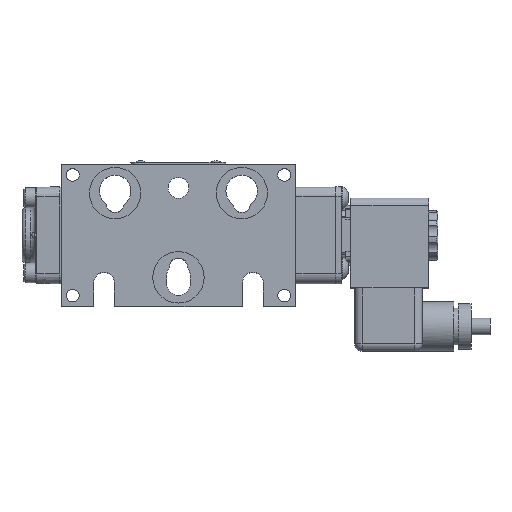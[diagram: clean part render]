
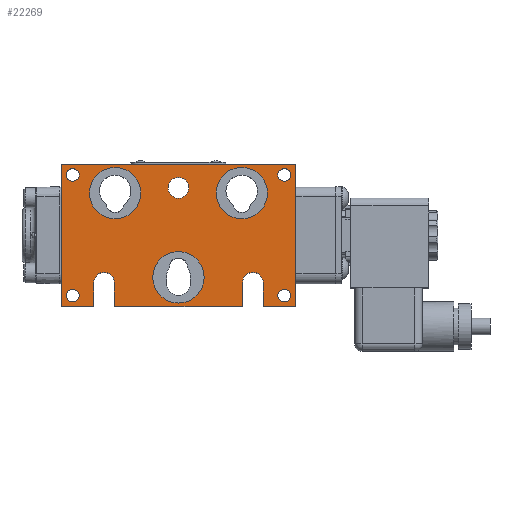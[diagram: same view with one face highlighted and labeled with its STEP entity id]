
A CAD part, top view. The second image highlights one B-rep face of the part: STEP entity #22269.
In plain terms, the highlighted planar face has unit normal (0, 0, 1).
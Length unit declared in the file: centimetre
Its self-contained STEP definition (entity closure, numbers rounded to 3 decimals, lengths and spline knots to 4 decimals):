
#1014=FACE_BOUND('',#6145,.T.);
#1015=FACE_BOUND('',#6146,.T.);
#1016=FACE_BOUND('',#6147,.T.);
#1017=FACE_BOUND('',#6148,.T.);
#1018=FACE_BOUND('',#6149,.T.);
#1019=FACE_BOUND('',#6150,.T.);
#1020=FACE_BOUND('',#6151,.T.);
#1021=FACE_BOUND('',#6152,.T.);
#1334=LINE('',#33173,#2672);
#1342=LINE('',#33197,#2680);
#1359=LINE('',#33302,#2697);
#1397=LINE('',#34109,#2735);
#1399=LINE('',#34113,#2737);
#1402=LINE('',#34121,#2740);
#1404=LINE('',#34125,#2742);
#1406=LINE('',#34129,#2744);
#1409=LINE('',#34137,#2747);
#1411=LINE('',#34140,#2749);
#2672=VECTOR('',#26499,9.4234);
#2680=VECTOR('',#26517,5.715);
#2697=VECTOR('',#26608,5.715);
#2735=VECTOR('',#27060,1.3106);
#2737=VECTOR('',#27064,0.9525);
#2740=VECTOR('',#27073,0.9525);
#2742=VECTOR('',#27077,5.1359);
#2744=VECTOR('',#27081,0.9525);
#2747=VECTOR('',#27090,0.9525);
#2749=VECTOR('',#27094,1.3106);
#4584=FACE_OUTER_BOUND('',#6144,.T.);
#6144=EDGE_LOOP('',(#14681,#14682,#14683,#14684,#14685,#14686,#14687,#14688,
#14689,#14690,#14691,#14692));
#6145=EDGE_LOOP('',(#14693));
#6146=EDGE_LOOP('',(#14694));
#6147=EDGE_LOOP('',(#14695));
#6148=EDGE_LOOP('',(#14696));
#6149=EDGE_LOOP('',(#14697));
#6150=EDGE_LOOP('',(#14698));
#6151=EDGE_LOOP('',(#14699));
#6152=EDGE_LOOP('',(#14700));
#7851=CIRCLE('',#23860,0.4167);
#7880=CIRCLE('',#23907,1.0312);
#7881=CIRCLE('',#23910,1.0312);
#7883=CIRCLE('',#23913,1.0312);
#7884=CIRCLE('',#23916,0.2578);
#7885=CIRCLE('',#23918,0.2578);
#7886=CIRCLE('',#23920,0.2578);
#7887=CIRCLE('',#23922,0.2578);
#7888=CIRCLE('',#23926,0.4166);
#7889=CIRCLE('',#23931,0.4166);
#9042=VERTEX_POINT('',#33171);
#9043=VERTEX_POINT('',#33172);
#9054=VERTEX_POINT('',#33196);
#9105=VERTEX_POINT('',#33301);
#9206=VERTEX_POINT('',#33980);
#9243=VERTEX_POINT('',#34083);
#9244=VERTEX_POINT('',#34087);
#9246=VERTEX_POINT('',#34092);
#9247=VERTEX_POINT('',#34096);
#9248=VERTEX_POINT('',#34099);
#9249=VERTEX_POINT('',#34102);
#9250=VERTEX_POINT('',#34105);
#9251=VERTEX_POINT('',#34108);
#9252=VERTEX_POINT('',#34112);
#9253=VERTEX_POINT('',#34116);
#9254=VERTEX_POINT('',#34120);
#9255=VERTEX_POINT('',#34124);
#9256=VERTEX_POINT('',#34128);
#9257=VERTEX_POINT('',#34132);
#9258=VERTEX_POINT('',#34136);
#11125=EDGE_CURVE('',#9042,#9043,#1334,.T.);
#11137=EDGE_CURVE('',#9043,#9054,#1342,.T.);
#11189=EDGE_CURVE('',#9105,#9042,#1359,.T.);
#11304=EDGE_CURVE('',#9206,#9206,#7851,.T.);
#11352=EDGE_CURVE('',#9243,#9243,#7880,.T.);
#11353=EDGE_CURVE('',#9244,#9244,#7881,.T.);
#11355=EDGE_CURVE('',#9246,#9246,#7883,.T.);
#11356=EDGE_CURVE('',#9247,#9247,#7884,.T.);
#11357=EDGE_CURVE('',#9248,#9248,#7885,.T.);
#11358=EDGE_CURVE('',#9249,#9249,#7886,.T.);
#11359=EDGE_CURVE('',#9250,#9250,#7887,.T.);
#11360=EDGE_CURVE('',#9054,#9251,#1397,.T.);
#11362=EDGE_CURVE('',#9251,#9252,#1399,.T.);
#11364=EDGE_CURVE('',#9252,#9253,#7888,.T.);
#11366=EDGE_CURVE('',#9253,#9254,#1402,.T.);
#11368=EDGE_CURVE('',#9254,#9255,#1404,.T.);
#11370=EDGE_CURVE('',#9255,#9256,#1406,.T.);
#11372=EDGE_CURVE('',#9256,#9257,#7889,.T.);
#11374=EDGE_CURVE('',#9257,#9258,#1409,.T.);
#11376=EDGE_CURVE('',#9258,#9105,#1411,.T.);
#14681=ORIENTED_EDGE('',*,*,#11125,.F.);
#14682=ORIENTED_EDGE('',*,*,#11189,.F.);
#14683=ORIENTED_EDGE('',*,*,#11376,.F.);
#14684=ORIENTED_EDGE('',*,*,#11374,.F.);
#14685=ORIENTED_EDGE('',*,*,#11372,.F.);
#14686=ORIENTED_EDGE('',*,*,#11370,.F.);
#14687=ORIENTED_EDGE('',*,*,#11368,.F.);
#14688=ORIENTED_EDGE('',*,*,#11366,.F.);
#14689=ORIENTED_EDGE('',*,*,#11364,.F.);
#14690=ORIENTED_EDGE('',*,*,#11362,.F.);
#14691=ORIENTED_EDGE('',*,*,#11360,.F.);
#14692=ORIENTED_EDGE('',*,*,#11137,.F.);
#14693=ORIENTED_EDGE('',*,*,#11304,.T.);
#14694=ORIENTED_EDGE('',*,*,#11352,.T.);
#14695=ORIENTED_EDGE('',*,*,#11353,.T.);
#14696=ORIENTED_EDGE('',*,*,#11355,.T.);
#14697=ORIENTED_EDGE('',*,*,#11356,.T.);
#14698=ORIENTED_EDGE('',*,*,#11357,.T.);
#14699=ORIENTED_EDGE('',*,*,#11358,.T.);
#14700=ORIENTED_EDGE('',*,*,#11359,.T.);
#20359=PLANE('',#23934);
#22269=ADVANCED_FACE('',(#4584,#1014,#1015,#1016,#1017,#1018,#1019,#1020,
#1021),#20359,.T.);
#23860=AXIS2_PLACEMENT_3D('',#33981,#26913,#26914);
#23907=AXIS2_PLACEMENT_3D('',#34084,#27026,#27027);
#23910=AXIS2_PLACEMENT_3D('',#34088,#27032,#27033);
#23913=AXIS2_PLACEMENT_3D('',#34093,#27038,#27039);
#23916=AXIS2_PLACEMENT_3D('',#34097,#27044,#27045);
#23918=AXIS2_PLACEMENT_3D('',#34100,#27048,#27049);
#23920=AXIS2_PLACEMENT_3D('',#34103,#27052,#27053);
#23922=AXIS2_PLACEMENT_3D('',#34106,#27056,#27057);
#23926=AXIS2_PLACEMENT_3D('',#34117,#27068,#27069);
#23931=AXIS2_PLACEMENT_3D('',#34133,#27085,#27086);
#23934=AXIS2_PLACEMENT_3D('',#34141,#27095,#27096);
#26499=DIRECTION('',(1.,0.,0.));
#26517=DIRECTION('',(0.,-1.,0.));
#26608=DIRECTION('',(0.,1.,0.));
#26913=DIRECTION('center_axis',(0.,0.,-1.));
#26914=DIRECTION('ref_axis',(1.,0.,0.));
#27026=DIRECTION('center_axis',(0.,0.,-1.));
#27027=DIRECTION('ref_axis',(-1.,0.,0.));
#27032=DIRECTION('center_axis',(0.,0.,-1.));
#27033=DIRECTION('ref_axis',(-1.,0.,0.));
#27038=DIRECTION('center_axis',(0.,0.,-1.));
#27039=DIRECTION('ref_axis',(-1.,0.,0.));
#27044=DIRECTION('center_axis',(0.,0.,-1.));
#27045=DIRECTION('ref_axis',(1.,0.,0.));
#27048=DIRECTION('center_axis',(0.,0.,-1.));
#27049=DIRECTION('ref_axis',(1.,0.,0.));
#27052=DIRECTION('center_axis',(0.,0.,-1.));
#27053=DIRECTION('ref_axis',(1.,0.,0.));
#27056=DIRECTION('center_axis',(0.,0.,-1.));
#27057=DIRECTION('ref_axis',(1.,0.,0.));
#27060=DIRECTION('',(-1.,0.,0.));
#27064=DIRECTION('',(0.,1.,0.));
#27068=DIRECTION('center_axis',(0.,0.,1.));
#27069=DIRECTION('ref_axis',(1.,0.,0.));
#27073=DIRECTION('',(0.,-1.,0.));
#27077=DIRECTION('',(-1.,0.,0.));
#27081=DIRECTION('',(0.,1.,0.));
#27085=DIRECTION('center_axis',(0.,0.,1.));
#27086=DIRECTION('ref_axis',(1.,0.,0.));
#27090=DIRECTION('',(0.,-1.,0.));
#27094=DIRECTION('',(-1.,0.,0.));
#27095=DIRECTION('center_axis',(0.,0.,1.));
#27096=DIRECTION('ref_axis',(1.,0.,0.));
#33171=CARTESIAN_POINT('',(-4.7117,2.8575,1.6662));
#33172=CARTESIAN_POINT('',(4.7117,2.8575,1.6662));
#33173=CARTESIAN_POINT('',(-4.7117,2.8575,1.6662));
#33196=CARTESIAN_POINT('',(4.7117,-2.8575,1.6662));
#33197=CARTESIAN_POINT('',(4.7117,2.8575,1.6662));
#33301=CARTESIAN_POINT('',(-4.7117,-2.8575,1.6662));
#33302=CARTESIAN_POINT('',(-4.7117,-2.8575,1.6662));
#33980=CARTESIAN_POINT('',(0.4167,1.905,1.6662));
#33981=CARTESIAN_POINT('Origin',(0.,1.905,1.6662));
#34083=CARTESIAN_POINT('',(3.5712,1.6891,1.6662));
#34084=CARTESIAN_POINT('Origin',(2.54,1.6891,1.6662));
#34087=CARTESIAN_POINT('',(1.0312,-1.6891,1.6662));
#34088=CARTESIAN_POINT('Origin',(0.,-1.6891,1.6662));
#34092=CARTESIAN_POINT('',(-1.5088,1.6891,1.6662));
#34093=CARTESIAN_POINT('Origin',(-2.54,1.6891,1.6662));
#34096=CARTESIAN_POINT('',(4.5047,-2.4206,1.6662));
#34097=CARTESIAN_POINT('Origin',(4.2469,-2.4206,1.6662));
#34099=CARTESIAN_POINT('',(-3.9865,-2.4206,1.6662));
#34100=CARTESIAN_POINT('Origin',(-4.2443,-2.4206,1.6662));
#34102=CARTESIAN_POINT('',(4.5047,2.4206,1.6662));
#34103=CARTESIAN_POINT('Origin',(4.2469,2.4206,1.6662));
#34105=CARTESIAN_POINT('',(-3.9865,2.4206,1.6662));
#34106=CARTESIAN_POINT('Origin',(-4.2443,2.4206,1.6662));
#34108=CARTESIAN_POINT('',(3.4011,-2.8575,1.6662));
#34109=CARTESIAN_POINT('',(4.7117,-2.8575,1.6662));
#34112=CARTESIAN_POINT('',(3.4011,-1.905,1.6662));
#34113=CARTESIAN_POINT('',(3.4011,-2.8575,1.6662));
#34116=CARTESIAN_POINT('',(2.5679,-1.905,1.6662));
#34117=CARTESIAN_POINT('Origin',(2.9845,-1.905,1.6662));
#34120=CARTESIAN_POINT('',(2.5679,-2.8575,1.6662));
#34121=CARTESIAN_POINT('',(2.5679,-1.905,1.6662));
#34124=CARTESIAN_POINT('',(-2.5679,-2.8575,1.6662));
#34125=CARTESIAN_POINT('',(2.5679,-2.8575,1.6662));
#34128=CARTESIAN_POINT('',(-2.5679,-1.905,1.6662));
#34129=CARTESIAN_POINT('',(-2.5679,-2.8575,1.6662));
#34132=CARTESIAN_POINT('',(-3.4011,-1.905,1.6662));
#34133=CARTESIAN_POINT('Origin',(-2.9845,-1.905,1.6662));
#34136=CARTESIAN_POINT('',(-3.4011,-2.8575,1.6662));
#34137=CARTESIAN_POINT('',(-3.4011,-1.905,1.6662));
#34140=CARTESIAN_POINT('',(-3.4011,-2.8575,1.6662));
#34141=CARTESIAN_POINT('Origin',(0.,-0.2475,
1.6662));
